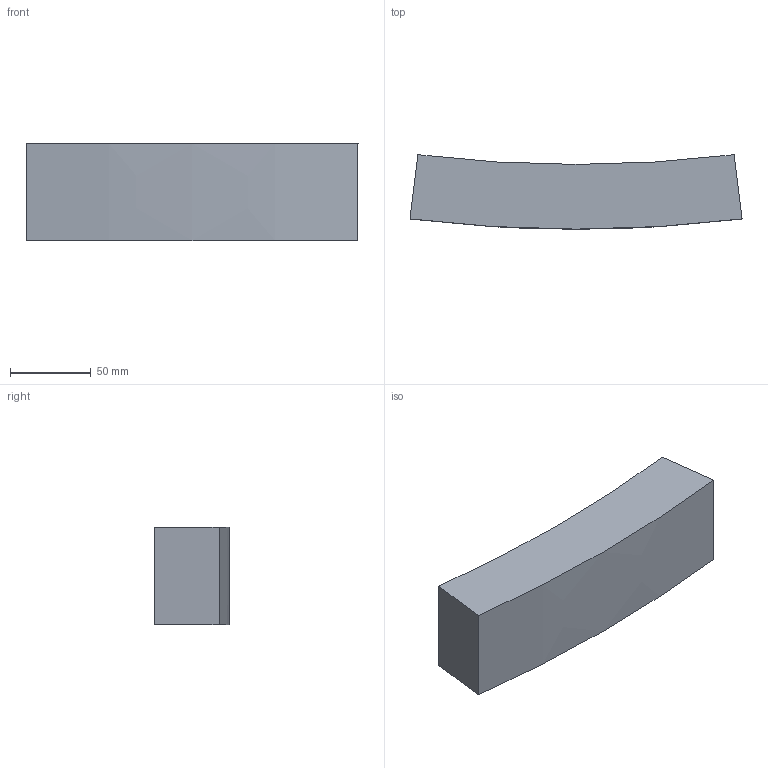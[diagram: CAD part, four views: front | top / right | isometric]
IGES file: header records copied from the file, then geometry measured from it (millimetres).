
Start section:  PTC IGES file: d160-1600_fixbloc_d800_pk-01.igs
Global section: file name: d160-1600_fixbloc_d800_pk-01.igs; native system: Creo Parametric by PTC Inc.; preprocessor: 2019030; author: demmerls; organization: Unknown; date: 20200928.092522; units: millimetre
Bounding box: 205.22 x 45.99 x 60 mm (x, y, z)
Surface area: 44967.7 mm2 (no closed solid volume)
Topology: 0 solids, 0 shells, 6 faces, 24 edges, 24 vertices
Faces by surface type: bspline 6
